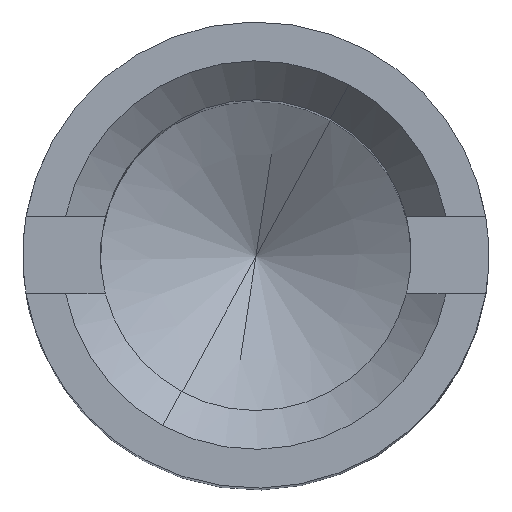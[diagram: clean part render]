
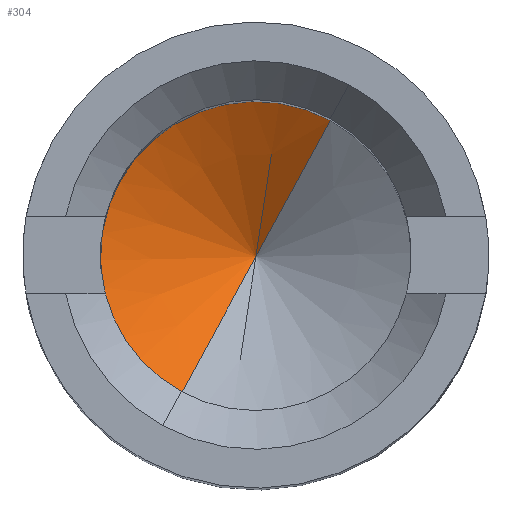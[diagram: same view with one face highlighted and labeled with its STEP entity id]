
A CAD part, top view. The second image highlights one B-rep face of the part: STEP entity #304.
In plain terms, the highlighted conical face has half-angle 60 degrees and reference radius 0 mm.
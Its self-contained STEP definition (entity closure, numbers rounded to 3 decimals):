
#304 = ADVANCED_FACE('',(#305),#319,.F.);
#305 = FACE_BOUND('',#306,.F.);
#306 = EDGE_LOOP('',(#307,#352,#391));
#307 = ORIENTED_EDGE('',*,*,#308,.T.);
#308 = EDGE_CURVE('',#309,#311,#313,.T.);
#309 = VERTEX_POINT('',#310);
#310 = CARTESIAN_POINT('',(3.,3.,5.345));
#311 = VERTEX_POINT('',#312);
#312 = CARTESIAN_POINT('',(2.041,1.245,6.5));
#313 = SURFACE_CURVE('',#314,(#318),.PCURVE_S1.);
#314 = LINE('',#315,#316);
#315 = CARTESIAN_POINT('',(-207594.348,-380001.396,
    250005.345));
#316 = VECTOR('',#317,1.);
#317 = DIRECTION('',(-0.415,-0.76,0.5));
#318 = PCURVE('',#319,#324);
#319 = CONICAL_SURFACE('',#320,0.,1.047);
#320 = AXIS2_PLACEMENT_3D('',#321,#322,#323);
#321 = CARTESIAN_POINT('',(3.,3.,5.345));
#322 = DIRECTION('',(0.,0.,1.));
#323 = DIRECTION('',(0.479,0.878,0.));
#324 = DEFINITIONAL_REPRESENTATION('',(#325),#351);
#325 = B_SPLINE_CURVE_WITH_KNOTS('',3,(#326,#327,#328,#329,#330,#331,
    #332,#333,#334,#335,#336,#337,#338,#339,#340,#341,#342,#343,#344,
    #345,#346,#347,#348,#349,#350),.UNSPECIFIED.,.F.,.F.,(4,1,1,1,1,1,1,
    1,1,1,1,1,1,1,1,1,1,1,1,1,1,1,4),(-500000.,
    -499999.895,-499999.79,-499999.685,
    -499999.58,-499999.475,-499999.37,
    -499999.265,-499999.16,-499999.055,
    -499998.95,-499998.845,-499998.74,
    -499998.635,-499998.53,-499998.425,
    -499998.32,-499998.215,-499998.11,
    -499998.006,-499997.901,-499997.796,
    -499997.691),.QUASI_UNIFORM_KNOTS.);
#326 = CARTESIAN_POINT('',(3.142,0.));
#327 = CARTESIAN_POINT('',(3.142,0.017));
#328 = CARTESIAN_POINT('',(3.142,0.052));
#329 = CARTESIAN_POINT('',(3.142,0.105));
#330 = CARTESIAN_POINT('',(3.142,0.157));
#331 = CARTESIAN_POINT('',(3.142,0.21));
#332 = CARTESIAN_POINT('',(3.142,0.262));
#333 = CARTESIAN_POINT('',(3.142,0.315));
#334 = CARTESIAN_POINT('',(3.142,0.367));
#335 = CARTESIAN_POINT('',(3.142,0.42));
#336 = CARTESIAN_POINT('',(3.142,0.472));
#337 = CARTESIAN_POINT('',(3.142,0.525));
#338 = CARTESIAN_POINT('',(3.142,0.577));
#339 = CARTESIAN_POINT('',(3.142,0.63));
#340 = CARTESIAN_POINT('',(3.142,0.682));
#341 = CARTESIAN_POINT('',(3.142,0.735));
#342 = CARTESIAN_POINT('',(3.142,0.787));
#343 = CARTESIAN_POINT('',(3.142,0.84));
#344 = CARTESIAN_POINT('',(3.142,0.892));
#345 = CARTESIAN_POINT('',(3.142,0.945));
#346 = CARTESIAN_POINT('',(3.142,0.997));
#347 = CARTESIAN_POINT('',(3.142,1.05));
#348 = CARTESIAN_POINT('',(3.142,1.102));
#349 = CARTESIAN_POINT('',(3.142,1.137));
#350 = CARTESIAN_POINT('',(3.142,1.155));
#351 = ( GEOMETRIC_REPRESENTATION_CONTEXT(2) 
PARAMETRIC_REPRESENTATION_CONTEXT() REPRESENTATION_CONTEXT('2D SPACE',''
  ) );
#352 = ORIENTED_EDGE('',*,*,#353,.F.);
#353 = EDGE_CURVE('',#354,#311,#356,.T.);
#354 = VERTEX_POINT('',#355);
#355 = CARTESIAN_POINT('',(3.959,4.755,6.5));
#356 = SURFACE_CURVE('',#357,(#362),.PCURVE_S1.);
#357 = CIRCLE('',#358,2.);
#358 = AXIS2_PLACEMENT_3D('',#359,#360,#361);
#359 = CARTESIAN_POINT('',(3.,3.,6.5));
#360 = DIRECTION('',(0.,0.,1.));
#361 = DIRECTION('',(0.,1.,0.));
#362 = PCURVE('',#319,#363);
#363 = DEFINITIONAL_REPRESENTATION('',(#364),#390);
#364 = B_SPLINE_CURVE_WITH_KNOTS('',3,(#365,#366,#367,#368,#369,#370,
    #371,#372,#373,#374,#375,#376,#377,#378,#379,#380,#381,#382,#383,
    #384,#385,#386,#387,#388,#389),.UNSPECIFIED.,.F.,.F.,(4,1,1,1,1,1,1,
    1,1,1,1,1,1,1,1,1,1,1,1,1,1,1,4),(5.783,5.926,
    6.069,6.212,6.354,6.497,
    6.64,6.783,6.926,7.068,
    7.211,7.354,7.497,7.64,
    7.782,7.925,8.068,8.211,
    8.354,8.496,8.639,8.782,
    8.925),.QUASI_UNIFORM_KNOTS.);
#365 = CARTESIAN_POINT('',(0.,1.155));
#366 = CARTESIAN_POINT('',(0.048,1.155));
#367 = CARTESIAN_POINT('',(0.143,1.155));
#368 = CARTESIAN_POINT('',(0.286,1.155));
#369 = CARTESIAN_POINT('',(0.428,1.155));
#370 = CARTESIAN_POINT('',(0.571,1.155));
#371 = CARTESIAN_POINT('',(0.714,1.155));
#372 = CARTESIAN_POINT('',(0.857,1.155));
#373 = CARTESIAN_POINT('',(1.,1.155));
#374 = CARTESIAN_POINT('',(1.142,1.155));
#375 = CARTESIAN_POINT('',(1.285,1.155));
#376 = CARTESIAN_POINT('',(1.428,1.155));
#377 = CARTESIAN_POINT('',(1.571,1.155));
#378 = CARTESIAN_POINT('',(1.714,1.155));
#379 = CARTESIAN_POINT('',(1.856,1.155));
#380 = CARTESIAN_POINT('',(1.999,1.155));
#381 = CARTESIAN_POINT('',(2.142,1.155));
#382 = CARTESIAN_POINT('',(2.285,1.155));
#383 = CARTESIAN_POINT('',(2.428,1.155));
#384 = CARTESIAN_POINT('',(2.57,1.155));
#385 = CARTESIAN_POINT('',(2.713,1.155));
#386 = CARTESIAN_POINT('',(2.856,1.155));
#387 = CARTESIAN_POINT('',(2.999,1.155));
#388 = CARTESIAN_POINT('',(3.094,1.155));
#389 = CARTESIAN_POINT('',(3.142,1.155));
#390 = ( GEOMETRIC_REPRESENTATION_CONTEXT(2) 
PARAMETRIC_REPRESENTATION_CONTEXT() REPRESENTATION_CONTEXT('2D SPACE',''
  ) );
#391 = ORIENTED_EDGE('',*,*,#392,.F.);
#392 = EDGE_CURVE('',#309,#354,#393,.T.);
#393 = SURFACE_CURVE('',#394,(#398),.PCURVE_S1.);
#394 = LINE('',#395,#396);
#395 = CARTESIAN_POINT('',(207600.348,380007.396,
    250005.345));
#396 = VECTOR('',#397,1.);
#397 = DIRECTION('',(0.415,0.76,0.5));
#398 = PCURVE('',#319,#399);
#399 = DEFINITIONAL_REPRESENTATION('',(#400),#426);
#400 = B_SPLINE_CURVE_WITH_KNOTS('',3,(#401,#402,#403,#404,#405,#406,
    #407,#408,#409,#410,#411,#412,#413,#414,#415,#416,#417,#418,#419,
    #420,#421,#422,#423,#424,#425),.UNSPECIFIED.,.F.,.F.,(4,1,1,1,1,1,1,
    1,1,1,1,1,1,1,1,1,1,1,1,1,1,1,4),(-500000.,
    -499999.895,-499999.79,-499999.685,
    -499999.58,-499999.475,-499999.37,
    -499999.265,-499999.16,-499999.055,
    -499998.95,-499998.845,-499998.74,
    -499998.635,-499998.53,-499998.425,
    -499998.32,-499998.215,-499998.11,
    -499998.006,-499997.901,-499997.796,
    -499997.691),.QUASI_UNIFORM_KNOTS.);
#401 = CARTESIAN_POINT('',(0.,0.));
#402 = CARTESIAN_POINT('',(0.,0.017));
#403 = CARTESIAN_POINT('',(0.,0.052));
#404 = CARTESIAN_POINT('',(0.,0.105));
#405 = CARTESIAN_POINT('',(0.,0.157));
#406 = CARTESIAN_POINT('',(0.,0.21));
#407 = CARTESIAN_POINT('',(0.,0.262));
#408 = CARTESIAN_POINT('',(0.,0.315));
#409 = CARTESIAN_POINT('',(0.,0.367));
#410 = CARTESIAN_POINT('',(0.,0.42));
#411 = CARTESIAN_POINT('',(0.,0.472));
#412 = CARTESIAN_POINT('',(0.,0.525));
#413 = CARTESIAN_POINT('',(0.,0.577));
#414 = CARTESIAN_POINT('',(0.,0.63));
#415 = CARTESIAN_POINT('',(0.,0.682));
#416 = CARTESIAN_POINT('',(0.,0.735));
#417 = CARTESIAN_POINT('',(0.,0.787));
#418 = CARTESIAN_POINT('',(0.,0.84));
#419 = CARTESIAN_POINT('',(0.,0.892));
#420 = CARTESIAN_POINT('',(0.,0.945));
#421 = CARTESIAN_POINT('',(0.,0.997));
#422 = CARTESIAN_POINT('',(0.,1.05));
#423 = CARTESIAN_POINT('',(0.,1.102));
#424 = CARTESIAN_POINT('',(0.,1.137));
#425 = CARTESIAN_POINT('',(0.,1.155));
#426 = ( GEOMETRIC_REPRESENTATION_CONTEXT(2) 
PARAMETRIC_REPRESENTATION_CONTEXT() REPRESENTATION_CONTEXT('2D SPACE',''
  ) );
